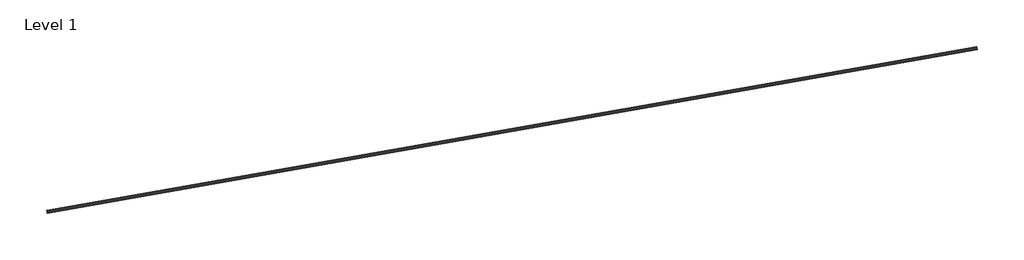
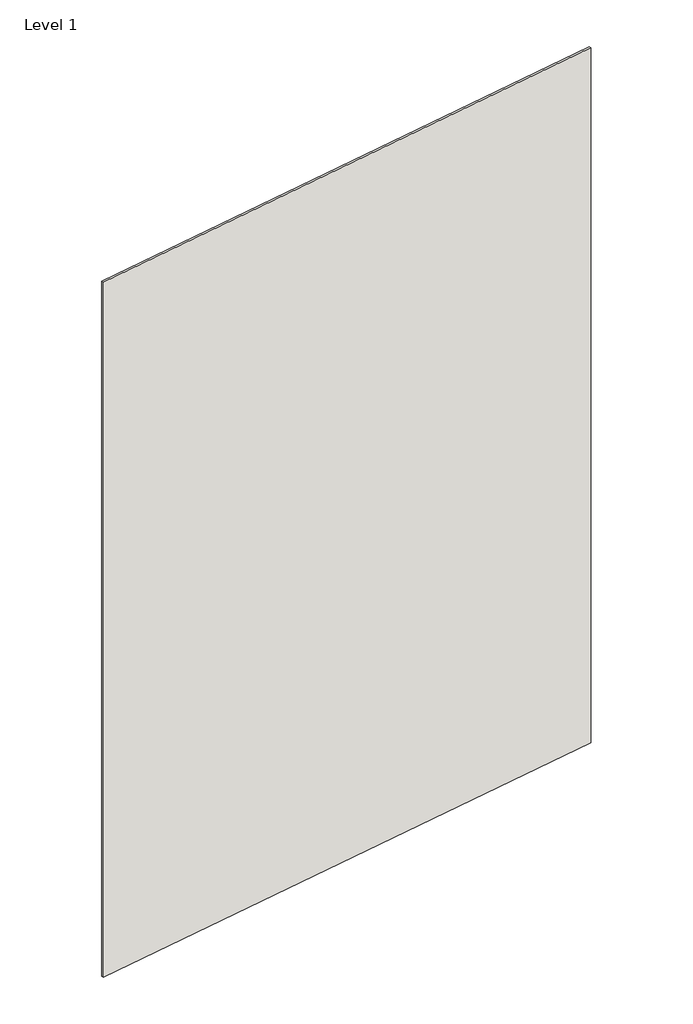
# One storey: 1 wall.
"""IFC4 building model written with IfcOpenShell, lengths in millimetres."""

from ifc_helpers import new_model, si_unit, origin, origin_with_axes, place, context, project, spatial, polyline, outline, extrude, element, save

model = new_model("IFC4")

# Units and contexts
model_context = context("Model", 3, world=origin())
ifc_project = project(units=[si_unit("LENGTHUNIT", "METRE", prefix="MILLI")], contexts=[model_context])

# Site, building, storey
site = spatial("IfcSite", under=ifc_project)
building = spatial("IfcBuilding", under=site)
storey = spatial("IfcBuildingStorey", under=building, Name="Level 1", Elevation=0.0)

# Wall
placement = place(None, origin())
element("IfcWall", 1, ObjectType="Glass", at=placement, inside=storey, context=model_context, shape_type="SweptSolid", body=[
    extrude(outline(polyline([(-3134.5904488, 2253.3840743), (-4611.8020783, 1992.9118078), (-4612.6703192, 1997.8358465), (-3135.4586897, 2258.308113), (-3134.5904488, 2253.3840743)])), origin_with_axes(), (0.0, 0.0, 1.0), 2000.0),
])

save(model, "model.ifc")
